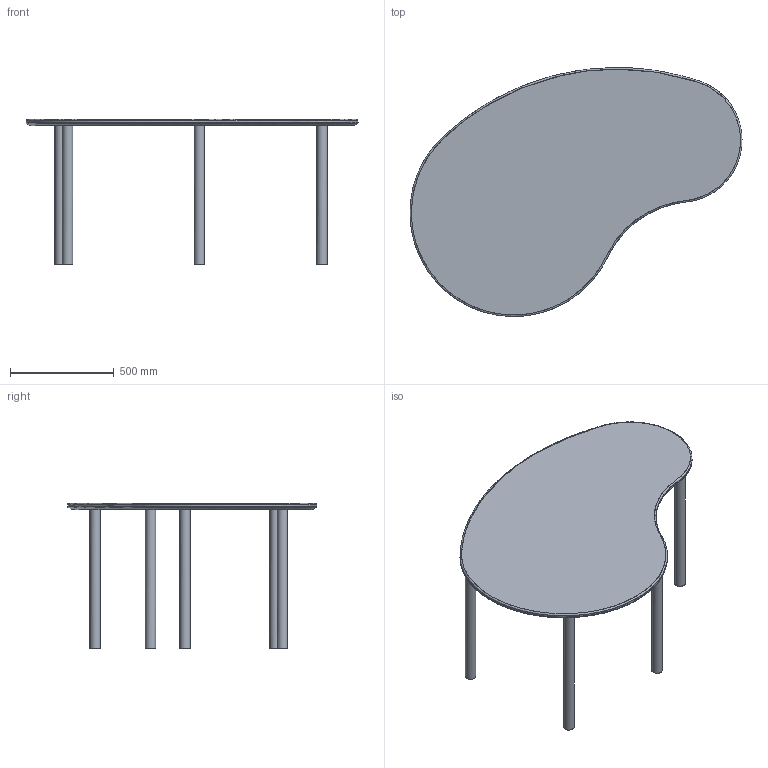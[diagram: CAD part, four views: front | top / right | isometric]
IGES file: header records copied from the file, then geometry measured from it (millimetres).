
Global section: file name: C:\Users\watanabe\Desktop\; native system: Rhinoceros ( Aug 10 2015 ); preprocessor: Trout Lake IGES 012 Aug 10 2015; date: 160907.093310; units: centimetre
Bounding box: 1599.78 x 1199.97 x 700 mm (x, y, z)
Surface area: 3182894.3 mm2 (no closed solid volume)
Topology: 0 solids, 0 shells, 16 faces, 122 edges, 108 vertices
Faces by surface type: bspline 16
